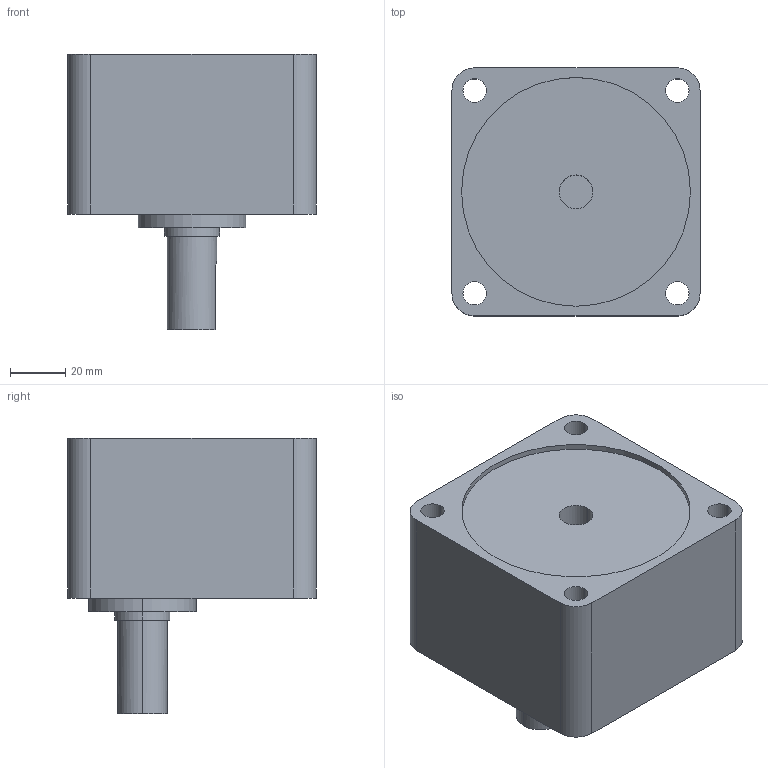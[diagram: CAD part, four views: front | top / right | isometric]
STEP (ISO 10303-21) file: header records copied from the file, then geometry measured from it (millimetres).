
FILE_DESCRIPTION (( 'STEP AP203' ), '1' );
FILE_NAME ('A1893B.step', '2024-04-24T09:22:52', ( '' ), ( '' ), 'SwSTEP 2.0', 'SolidWorks 2023', '' );
FILE_SCHEMA (( 'CONFIG_CONTROL_DESIGN' ));
Length unit declared in the file: millimetre
Products named in the file (1): A1893B
Bounding box: 90 x 90 x 100 mm (x, y, z)
Volume: 452610.8 mm3; surface area: 46633.7 mm2
Topology: 1 solids, 1 shells, 49 faces, 116 edges, 75 vertices
Faces by surface type: cylinder 29, plane 16, cone 4
Entity records: 1542 total; most frequent: DIRECTION 271, CARTESIAN_POINT 269, ORIENTED_EDGE 228, EDGE_CURVE 114, AXIS2_PLACEMENT_3D 109, VERTEX_POINT 75, EDGE_LOOP 65, CIRCLE 59
